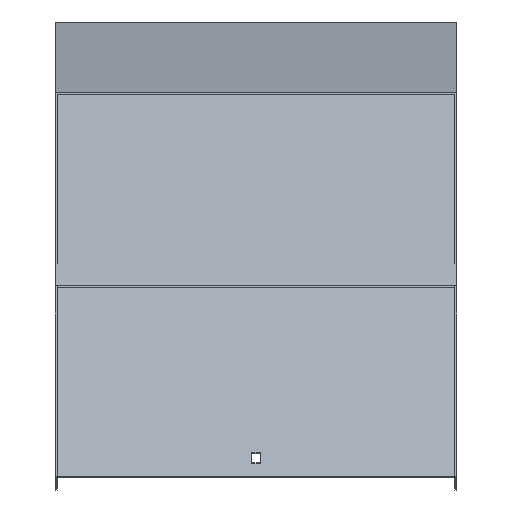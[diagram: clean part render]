
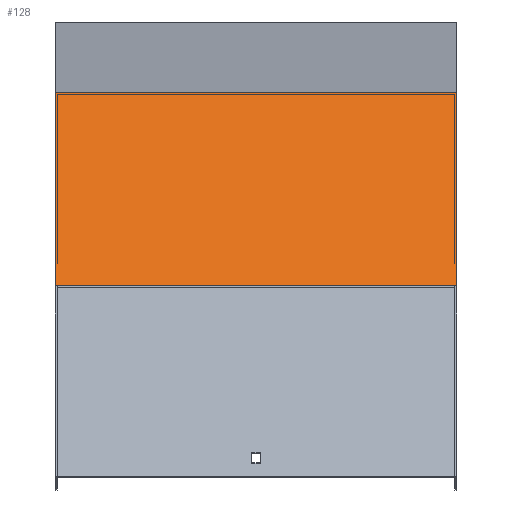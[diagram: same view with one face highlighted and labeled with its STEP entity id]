
A CAD part, top view. The second image highlights one B-rep face of the part: STEP entity #128.
In plain terms, the highlighted planar face has unit normal (0, 0.707, 0.707).
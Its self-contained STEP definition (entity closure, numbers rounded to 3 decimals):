
#12 = CARTESIAN_POINT ( 'NONE',  ( 151.5, -33.573, 366.572 ) ) ;
#21 = EDGE_LOOP ( 'NONE', ( #372, #154, #852, #62 ) ) ;
#62 = ORIENTED_EDGE ( 'NONE', *, *, #952, .T. ) ;
#82 = VERTEX_POINT ( 'NONE', #637 ) ;
#85 = LINE ( 'NONE', #12, #588 ) ;
#101 = VERTEX_POINT ( 'NONE', #961 ) ;
#116 = DIRECTION ( 'NONE',  ( -1., 0., 0. ) ) ;
#128 = ADVANCED_FACE ( 'NONE', ( #590 ), #358, .F. ) ;
#154 = ORIENTED_EDGE ( 'NONE', *, *, #632, .F. ) ;
#187 = LINE ( 'NONE', #491, #713 ) ;
#207 = VERTEX_POINT ( 'NONE', #584 ) ;
#243 = AXIS2_PLACEMENT_3D ( 'NONE', #900, #743, #276 ) ;
#246 = DIRECTION ( 'NONE',  ( -1., 0., 0. ) ) ;
#252 = EDGE_CURVE ( 'NONE', #714, #207, #601, .T. ) ;
#276 = DIRECTION ( 'NONE',  ( 0., 0.707, -0.707 ) ) ;
#304 = CARTESIAN_POINT ( 'NONE',  ( 151.5, -37.363, 370.361 ) ) ;
#358 = PLANE ( 'NONE',  #243 ) ;
#372 = ORIENTED_EDGE ( 'NONE', *, *, #675, .T. ) ;
#380 = DIRECTION ( 'NONE',  ( 0., -0.707, 0.707 ) ) ;
#424 = CARTESIAN_POINT ( 'NONE',  ( 151.5, -33.573, 366.572 ) ) ;
#475 = VECTOR ( 'NONE', #380, 1000. ) ;
#491 = CARTESIAN_POINT ( 'NONE',  ( -151.5, -37.363, 370.361 ) ) ;
#496 = DIRECTION ( 'NONE',  ( 0., -0.707, 0.707 ) ) ;
#581 = LINE ( 'NONE', #797, #938 ) ;
#584 = CARTESIAN_POINT ( 'NONE',  ( 151.5, -179.939, 512.937 ) ) ;
#588 = VECTOR ( 'NONE', #246, 1000. ) ;
#590 = FACE_OUTER_BOUND ( 'NONE', #21, .T. ) ;
#601 = LINE ( 'NONE', #304, #475 ) ;
#632 = EDGE_CURVE ( 'NONE', #207, #101, #581, .T. ) ;
#637 = CARTESIAN_POINT ( 'NONE',  ( -151.5, -33.573, 366.572 ) ) ;
#675 = EDGE_CURVE ( 'NONE', #82, #101, #187, .T. ) ;
#713 = VECTOR ( 'NONE', #496, 1000. ) ;
#714 = VERTEX_POINT ( 'NONE', #424 ) ;
#743 = DIRECTION ( 'NONE',  ( 0., -0.707, -0.707 ) ) ;
#797 = CARTESIAN_POINT ( 'NONE',  ( 151.5, -179.939, 512.937 ) ) ;
#852 = ORIENTED_EDGE ( 'NONE', *, *, #252, .F. ) ;
#900 = CARTESIAN_POINT ( 'NONE',  ( 151.5, -37.363, 370.361 ) ) ;
#938 = VECTOR ( 'NONE', #116, 1000. ) ;
#952 = EDGE_CURVE ( 'NONE', #714, #82, #85, .T. ) ;
#961 = CARTESIAN_POINT ( 'NONE',  ( -151.5, -179.939, 512.937 ) ) ;
